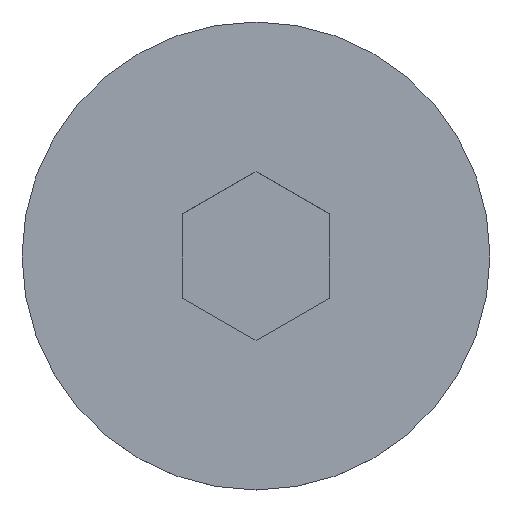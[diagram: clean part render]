
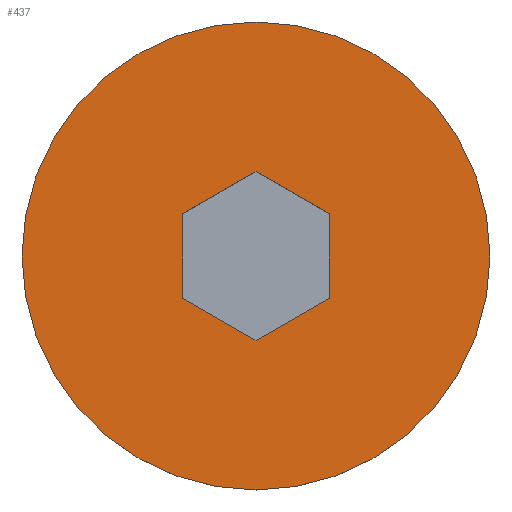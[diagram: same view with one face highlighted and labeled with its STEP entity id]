
A CAD part, top view. The second image highlights one B-rep face of the part: STEP entity #437.
In plain terms, the highlighted planar face has unit normal (0, 0, 1).
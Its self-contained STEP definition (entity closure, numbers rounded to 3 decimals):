
#228=CARTESIAN_POINT('',(-2.5,-1.443,0.));
#229=VERTEX_POINT('',#228);
#236=CARTESIAN_POINT('',(0.,-2.887,0.));
#237=VERTEX_POINT('',#236);
#238=CARTESIAN_POINT('',(0.,-2.887,0.));
#239=DIRECTION('',(-0.866,0.5,0.0));
#240=VECTOR('',#239,2.887);
#241=LINE('',#238,#240);
#242=EDGE_CURVE('',#237,#229,#241,.T.);
#267=CARTESIAN_POINT('',(2.5,-1.443,0.));
#268=VERTEX_POINT('',#267);
#269=CARTESIAN_POINT('',(2.5,-1.443,0.));
#270=DIRECTION('',(-0.866,-0.5,0.0));
#271=VECTOR('',#270,2.887);
#272=LINE('',#269,#271);
#273=EDGE_CURVE('',#268,#237,#272,.T.);
#298=CARTESIAN_POINT('',(2.5,1.443,0.));
#299=VERTEX_POINT('',#298);
#300=CARTESIAN_POINT('',(2.5,1.443,0.));
#301=DIRECTION('',(0.0,-1.0,0.0));
#302=VECTOR('',#301,2.887);
#303=LINE('',#300,#302);
#304=EDGE_CURVE('',#299,#268,#303,.T.);
#329=CARTESIAN_POINT('',(0.,2.887,0.));
#330=VERTEX_POINT('',#329);
#331=CARTESIAN_POINT('',(0.,2.887,0.));
#332=DIRECTION('',(0.866,-0.5,0.0));
#333=VECTOR('',#332,2.887);
#334=LINE('',#331,#333);
#335=EDGE_CURVE('',#330,#299,#334,.T.);
#360=CARTESIAN_POINT('',(-2.5,1.443,0.));
#361=VERTEX_POINT('',#360);
#362=CARTESIAN_POINT('',(-2.5,1.443,0.));
#363=DIRECTION('',(0.866,0.5,0.0));
#364=VECTOR('',#363,2.887);
#365=LINE('',#362,#364);
#366=EDGE_CURVE('',#361,#330,#365,.T.);
#389=CARTESIAN_POINT('',(-2.5,-1.443,0.));
#390=DIRECTION('',(0.0,1.0,0.0));
#391=VECTOR('',#390,2.887);
#392=LINE('',#389,#391);
#393=EDGE_CURVE('',#229,#361,#392,.T.);
#413=CARTESIAN_POINT('',(4.0,0.0,0.));
#414=DIRECTION('',(0.0,0.0,1.0));
#415=DIRECTION('',(1.0,0.0,0.0));
#416=AXIS2_PLACEMENT_3D('',#413,#414,#415);
#417=PLANE('',#416);
#418=CARTESIAN_POINT('',(8.0,0.0,0.));
#419=VERTEX_POINT('',#418);
#420=CARTESIAN_POINT('',(0.0,0.0,0.0));
#421=DIRECTION('',(0.0,0.0,-1.0));
#422=DIRECTION('',(1.0,0.0,0.0));
#423=AXIS2_PLACEMENT_3D('',#420,#421,#422);
#424=CIRCLE('',#423,8.0);
#425=EDGE_CURVE('',#419,#419,#424,.T.);
#426=ORIENTED_EDGE('',*,*,#425,.F.);
#427=EDGE_LOOP('',(#426));
#428=FACE_OUTER_BOUND('',#427,.T.);
#429=ORIENTED_EDGE('',*,*,#242,.T.);
#430=ORIENTED_EDGE('',*,*,#393,.T.);
#431=ORIENTED_EDGE('',*,*,#366,.T.);
#432=ORIENTED_EDGE('',*,*,#335,.T.);
#433=ORIENTED_EDGE('',*,*,#304,.T.);
#434=ORIENTED_EDGE('',*,*,#273,.T.);
#435=EDGE_LOOP('',(#429,#430,#431,#432,#433,#434));
#436=FACE_BOUND('',#435,.T.);
#437=ADVANCED_FACE('',(#428,#436),#417,.T.);
